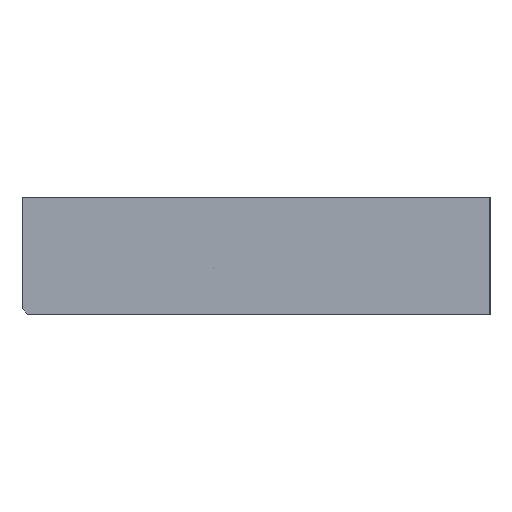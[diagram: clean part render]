
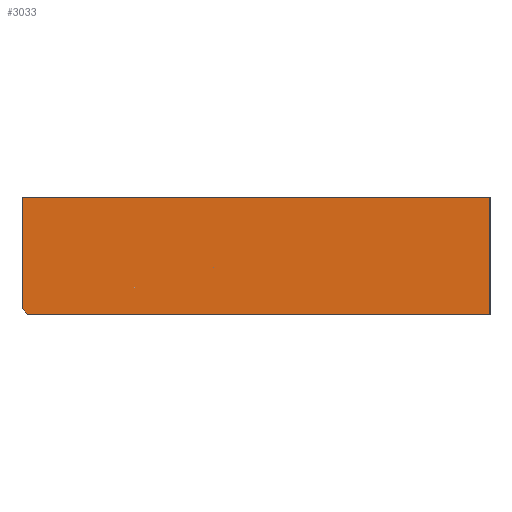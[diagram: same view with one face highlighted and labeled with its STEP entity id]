
A CAD part, left-side view. The second image highlights one B-rep face of the part: STEP entity #3033.
In plain terms, the highlighted planar face has unit normal (-1, 0, 0).
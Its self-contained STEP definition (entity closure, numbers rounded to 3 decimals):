
#283 = CARTESIAN_POINT ( 'NONE',  ( -30., 20., 0. ) ) ;
#314 = DIRECTION ( 'NONE',  ( 0., -1., 0. ) ) ;
#359 = DIRECTION ( 'NONE',  ( 0., 0., -1. ) ) ;
#376 = CARTESIAN_POINT ( 'NONE',  ( -30., 20., 10. ) ) ;
#389 = CARTESIAN_POINT ( 'NONE',  ( -30., 20., 0.5 ) ) ;
#390 = DIRECTION ( 'NONE',  ( 0., -0.707, -0.707 ) ) ;
#447 = DIRECTION ( 'NONE',  ( 0., 0., -1. ) ) ;
#451 = DIRECTION ( 'NONE',  ( 0., -1., 0. ) ) ;
#476 = CARTESIAN_POINT ( 'NONE',  ( -30., -20., 10. ) ) ;
#477 = CARTESIAN_POINT ( 'NONE',  ( -30., 20., 10. ) ) ;
#868 = FACE_OUTER_BOUND ( 'NONE', #2568, .T. ) ;
#1293 = VECTOR ( 'NONE', #359, 1000. ) ;
#1317 = LINE ( 'NONE', #283, #1325 ) ;
#1324 = LINE ( 'NONE', #376, #1293 ) ;
#1325 = VECTOR ( 'NONE', #314, 1000. ) ;
#1334 = VECTOR ( 'NONE', #390, 1000. ) ;
#1348 = VECTOR ( 'NONE', #451, 1000. ) ;
#1373 = LINE ( 'NONE', #476, #1382 ) ;
#1374 = LINE ( 'NONE', #477, #1348 ) ;
#1381 = LINE ( 'NONE', #389, #1334 ) ;
#1382 = VECTOR ( 'NONE', #447, 1000. ) ;
#1567 = DIRECTION ( 'NONE',  ( 1., 0., 0. ) ) ;
#1568 = DIRECTION ( 'NONE',  ( 0., 1., 0. ) ) ;
#1589 = PLANE ( 'NONE',  #4748 ) ;
#1597 = CARTESIAN_POINT ( 'NONE',  ( -30., 20., 10. ) ) ;
#2568 = EDGE_LOOP ( 'NONE', ( #3531, #3514, #3511, #3577, #3492 ) ) ;
#3033 = ADVANCED_FACE ( 'NONE', ( #868 ), #1589, .F. ) ;
#3318 = EDGE_CURVE ( 'NONE', #3848, #3845, #1317, .T. ) ;
#3328 = EDGE_CURVE ( 'NONE', #3846, #3843, #1324, .T. ) ;
#3347 = EDGE_CURVE ( 'NONE', #3843, #3848, #1381, .T. ) ;
#3353 = EDGE_CURVE ( 'NONE', #3862, #3845, #1373, .T. ) ;
#3355 = EDGE_CURVE ( 'NONE', #3846, #3862, #1374, .T. ) ;
#3492 = ORIENTED_EDGE ( 'NONE', *, *, #3355, .F. ) ;
#3511 = ORIENTED_EDGE ( 'NONE', *, *, #3318, .T. ) ;
#3514 = ORIENTED_EDGE ( 'NONE', *, *, #3347, .T. ) ;
#3531 = ORIENTED_EDGE ( 'NONE', *, *, #3328, .T. ) ;
#3577 = ORIENTED_EDGE ( 'NONE', *, *, #3353, .F. ) ;
#3843 = VERTEX_POINT ( 'NONE', #4490 ) ;
#3845 = VERTEX_POINT ( 'NONE', #4498 ) ;
#3846 = VERTEX_POINT ( 'NONE', #4505 ) ;
#3848 = VERTEX_POINT ( 'NONE', #4455 ) ;
#3862 = VERTEX_POINT ( 'NONE', #4468 ) ;
#4455 = CARTESIAN_POINT ( 'NONE',  ( -30., 19.5, 0. ) ) ;
#4468 = CARTESIAN_POINT ( 'NONE',  ( -30., -20., 10. ) ) ;
#4490 = CARTESIAN_POINT ( 'NONE',  ( -30., 20., 0.5 ) ) ;
#4498 = CARTESIAN_POINT ( 'NONE',  ( -30., -20., 0. ) ) ;
#4505 = CARTESIAN_POINT ( 'NONE',  ( -30., 20., 10. ) ) ;
#4748 = AXIS2_PLACEMENT_3D ( 'NONE', #1597, #1567, #1568 ) ;
